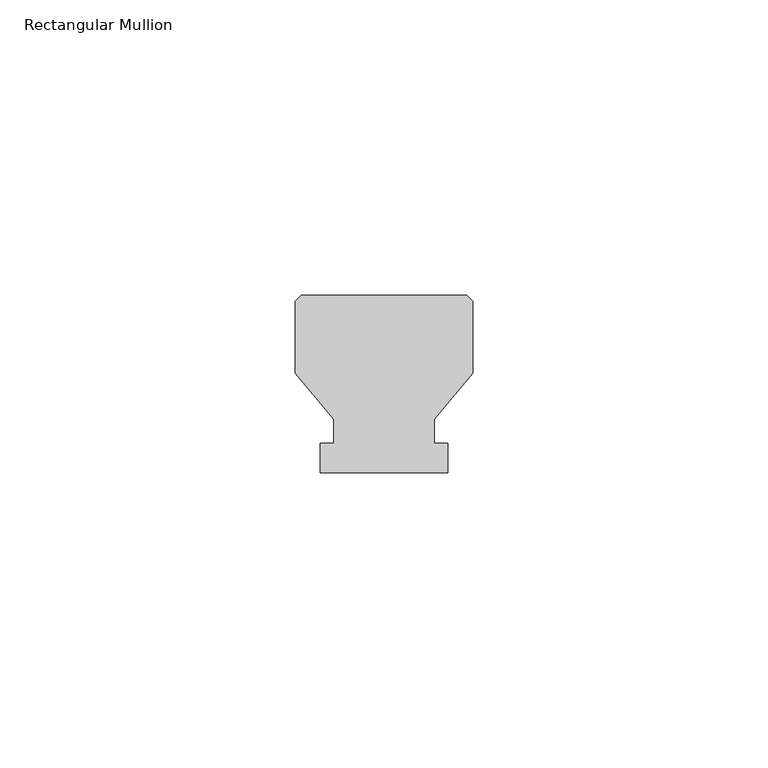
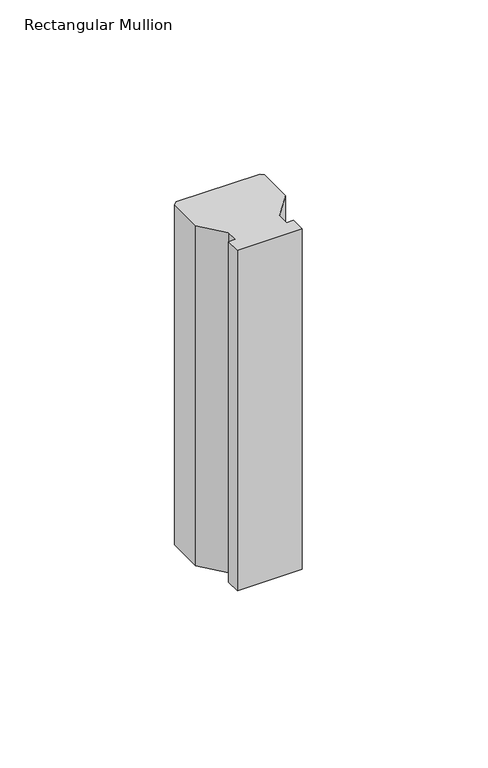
"""IFC4 building model written with IfcOpenShell, lengths in millimetres: member geometry, Rectangular Mullion : Batten_Timber_Modinex_Austratus_Grid_Fin_30x30_AlaskanYellowCedar."""

from ifc_helpers import new_model, si_unit, frame, origin, place, context, project, spatial, polyline, outline, extrude, source, transform, mapped, element, save


def rectangular_mullion_02594090(model_context):
    return source(origin(), model_context, "Body", "SweptSolid", [
        extrude(outline(polyline([(-30.0, 16.8079815), (-30.0, 29.0), (-29.0, 30.0), (-1.0, 30.0), (0.0, 29.0), (0.0, 16.8079815), (-6.5, 9.0), (-6.5, 5.0), (-4.187805, 5.0), (-4.187805, 0.0), (-25.812195, 0.0), (-25.812195, 5.0), (-23.5, 5.0), (-23.5, 9.0), (-30.0, 16.8079815)])), frame((0.0, 0.0, -120.0), z_axis=(0.0, 0.0, 1.0), x_axis=(1.0, 0.0, 0.0)), (0.0, 0.0, 1.0), 120.0),
    ])


if __name__ == "__main__":
    model = new_model("IFC4")
    model_context = context("Model", 3, world=origin())
    ifc_project = project(units=[si_unit("LENGTHUNIT", "METRE", prefix="MILLI")], contexts=[model_context])
    site = spatial("IfcSite", under=ifc_project)
    building = spatial("IfcBuilding", under=site)
    placement = place(None, origin())
    rectangular_mullion_shape = rectangular_mullion_02594090(model_context)
    element("IfcMember", 1, ObjectType="Rectangular Mullion : Batten_Timber_Modinex_Austratus_Grid_Fin_30x30_AlaskanYellowCedar", at=placement, inside=building, context=model_context, shape_type="MappedRepresentation", body=[
        mapped(rectangular_mullion_shape, transform((0.0, 0.0, 0.0), x_axis=(1.0, 0.0, 0.0), y_axis=(0.0, 1.0, 0.0), z_axis=(0.0, 0.0, 1.0))),
    ])
    save(model, "model.ifc")
